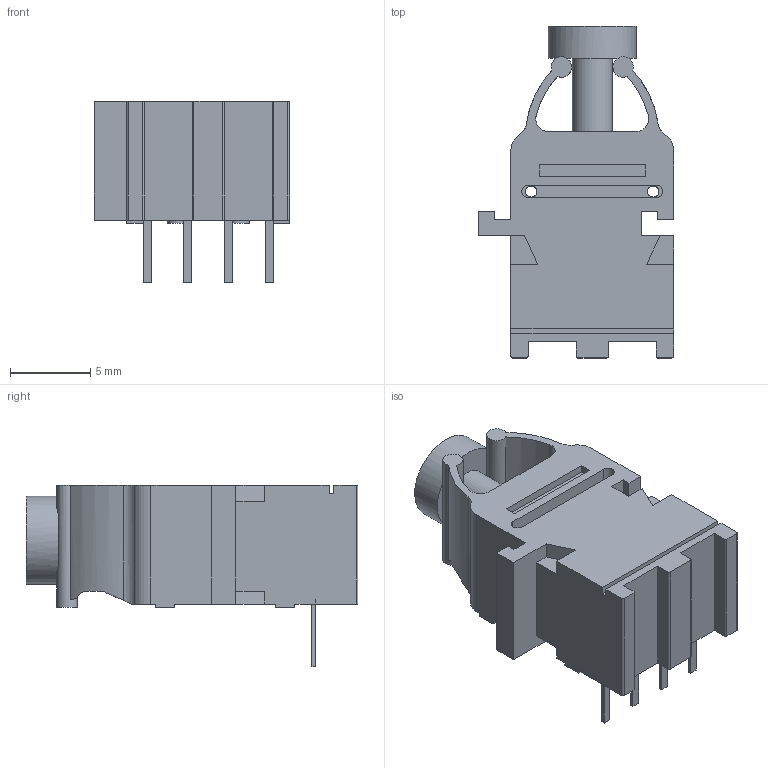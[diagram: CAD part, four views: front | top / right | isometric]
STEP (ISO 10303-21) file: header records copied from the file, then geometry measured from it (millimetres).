
FILE_DESCRIPTION(/* description */ ('STEP AP242 Edition 2','CAx-IF Rec.Pracs.---Representation and Presentation of Product Manufacturing Information (PMI)---4.0---2014-10-13','CAx-IF Rec.Pracs.---3D Tessellated Geometry---0.4---2014-09-14','2;1','CAx-IF Rec.Pracs.---User Defined Attributes---1.5---2016-08-15'),/* implementation_level */ '2;1');
FILE_NAME(/* name */ 'Assembly 1 - CONN-TH_HFBR-1521Z~CONN-TH_HFBR-1521Z~nxQB (6)',/* time_stamp */ '2026-04-02T09:55:12Z',/* author */ (''),/* organization */ (''),/* preprocessor_version */ 'ST-DEVELOPER v20',/* originating_system */ 'ONSHAPE BY PTC INC, 1.212',/* authorisation */ ' ');
FILE_SCHEMA (('AP242_MANAGED_MODEL_BASED_3D_ENGINEERING_MIM_LF { 1 0 10303 442 3 1 4 }'));
Length unit declared in the file: metre
Products named in the file (1): CONN-TH_HFBR-1521Z~CONN-TH_HFBR-1521Z~nxQB
Bounding box: 12.19 x 20.72 x 11.32 mm (x, y, z)
Volume: 1114.8 mm3; surface area: 1093.9 mm2
Topology: 1 solids, 1 shells, 201 faces, 573 edges, 381 vertices
Faces by surface type: plane 159, cylinder 28, bspline 14
Full cylindrical faces by diameter (mm): 0.7 x2, 1.269 x2, 2.5 x1, 5.5 x1
Entity records: 8370 total; most frequent: CARTESIAN_POINT 1968, ORIENTED_EDGE 1110, DIRECTION 950, EDGE_CURVE 555, LINE 452, VECTOR 452, VERTEX_POINT 371, AXIS2_PLACEMENT_3D 249
